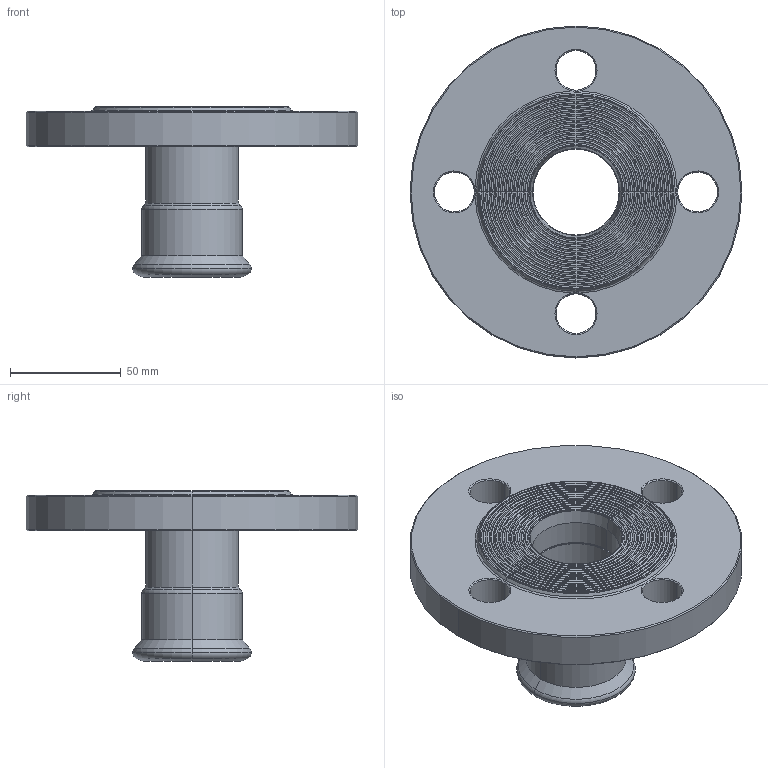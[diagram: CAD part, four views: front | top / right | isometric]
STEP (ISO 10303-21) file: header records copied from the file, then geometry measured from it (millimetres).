
FILE_DESCRIPTION(('CoCreate Modeling STEP Export'),'2;1');
FILE_NAME('C1426 42.stp','2014-11-12T15:28:07',(''),(''),'CoCreate Modeling STEP processor for AP214 (Solid Model)','CoCreate Modeling 17.00A 17-Jun-2010 (C) Parametric Technology GmbH','');
FILE_SCHEMA(('AUTOMOTIVE_DESIGN { 1 0 10303 214 1 1 1 1 }'));
Length unit declared in the file: millimetre
Products named in the file (1): C1426_42
Bounding box: 150 x 150 x 77 mm (x, y, z)
Volume: 271111.9 mm3; surface area: 61335.5 mm2
Topology: 1 solids, 1 shells, 159 faces, 347 edges, 203 vertices
Faces by surface type: torus 66, cone 48, cylinder 26, plane 19
Entity records: 3659 total; most frequent: CARTESIAN_POINT 745, ORIENTED_EDGE 694, DIRECTION 518, EDGE_CURVE 347, AXIS2_PLACEMENT_3D 222, VERTEX_POINT 203, EDGE_LOOP 182, CIRCLE 159
